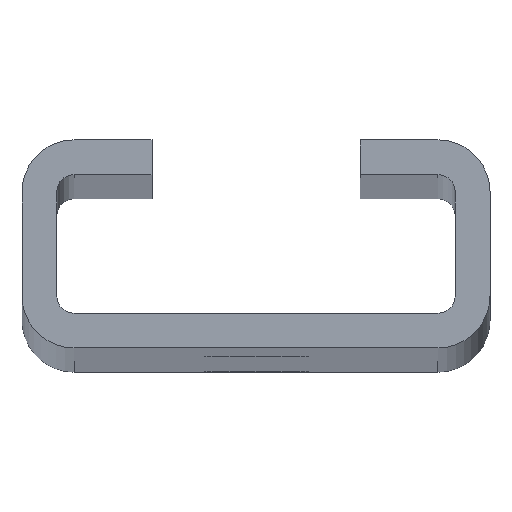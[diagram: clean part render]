
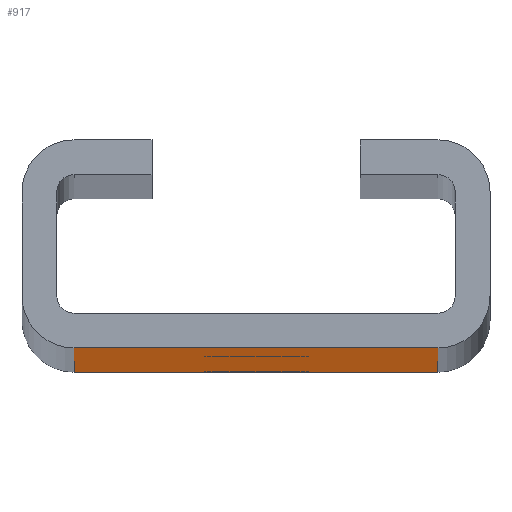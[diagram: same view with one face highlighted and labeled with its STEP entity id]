
A CAD part, top view. The second image highlights one B-rep face of the part: STEP entity #917.
In plain terms, the highlighted planar face has unit normal (0, -1, 0).
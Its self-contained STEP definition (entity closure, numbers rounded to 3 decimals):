
#40 = VERTEX_POINT ( 'NONE', #1173 ) ;
#86 = VERTEX_POINT ( 'NONE', #1135 ) ;
#88 = VERTEX_POINT ( 'NONE', #1134 ) ;
#89 = VERTEX_POINT ( 'NONE', #1138 ) ;
#90 = VERTEX_POINT ( 'NONE', #1139 ) ;
#91 = VERTEX_POINT ( 'NONE', #1105 ) ;
#96 = VERTEX_POINT ( 'NONE', #1172 ) ;
#102 = VERTEX_POINT ( 'NONE', #1154 ) ;
#110 = VERTEX_POINT ( 'NONE', #1131 ) ;
#119 = VERTEX_POINT ( 'NONE', #1116 ) ;
#124 = VERTEX_POINT ( 'NONE', #1111 ) ;
#125 = VERTEX_POINT ( 'NONE', #1145 ) ;
#162 = EDGE_CURVE ( 'NONE', #91, #86, #568, .T. ) ;
#222 = FACE_BOUND ( 'NONE', #1281, .T. ) ;
#223 = FACE_BOUND ( 'NONE', #1308, .T. ) ;
#246 = EDGE_CURVE ( 'NONE', #124, #110, #550, .T. ) ;
#247 = EDGE_CURVE ( 'NONE', #102, #96, #565, .T. ) ;
#248 = EDGE_CURVE ( 'NONE', #86, #91, #552, .T. ) ;
#291 = AXIS2_PLACEMENT_3D ( 'NONE', #630, #629, #628 ) ;
#314 = AXIS2_PLACEMENT_3D ( 'NONE', #725, #722, #718 ) ;
#317 = AXIS2_PLACEMENT_3D ( 'NONE', #820, #818, #815 ) ;
#318 = AXIS2_PLACEMENT_3D ( 'NONE', #906, #887, #861 ) ;
#321 = AXIS2_PLACEMENT_3D ( 'NONE', #952, #950, #949 ) ;
#329 = AXIS2_PLACEMENT_3D ( 'NONE', #1027, #1026, #1025 ) ;
#330 = AXIS2_PLACEMENT_3D ( 'NONE', #1033, #1032, #1031 ) ;
#343 = AXIS2_PLACEMENT_3D ( 'NONE', #999, #997, #998 ) ;
#348 = AXIS2_PLACEMENT_3D ( 'NONE', #1050, #1043, #1042 ) ;
#385 = EDGE_CURVE ( 'NONE', #110, #96, #511, .T. ) ;
#386 = EDGE_CURVE ( 'NONE', #90, #119, #519, .T. ) ;
#387 = EDGE_CURVE ( 'NONE', #88, #40, #509, .T. ) ;
#403 = EDGE_CURVE ( 'NONE', #124, #102, #451, .T. ) ;
#407 = EDGE_CURVE ( 'NONE', #125, #89, #459, .T. ) ;
#414 = EDGE_CURVE ( 'NONE', #40, #88, #466, .T. ) ;
#416 = EDGE_CURVE ( 'NONE', #119, #90, #444, .T. ) ;
#423 = EDGE_CURVE ( 'NONE', #89, #125, #474, .T. ) ;
#444 = CIRCLE ( 'NONE', #317, 3. ) ;
#451 = LINE ( 'NONE', #971, #454 ) ;
#454 = VECTOR ( 'NONE', #970, 1000. ) ;
#459 = CIRCLE ( 'NONE', #321, 3. ) ;
#466 = CIRCLE ( 'NONE', #318, 3. ) ;
#474 = CIRCLE ( 'NONE', #314, 3. ) ;
#508 = VECTOR ( 'NONE', #1038, 1000. ) ;
#509 = CIRCLE ( 'NONE', #329, 3. ) ;
#511 = LINE ( 'NONE', #1040, #508 ) ;
#519 = CIRCLE ( 'NONE', #330, 3. ) ;
#550 = LINE ( 'NONE', #1015, #566 ) ;
#552 = CIRCLE ( 'NONE', #343, 3. ) ;
#563 = VECTOR ( 'NONE', #1011, 1000. ) ;
#565 = LINE ( 'NONE', #1007, #563 ) ;
#566 = VECTOR ( 'NONE', #1013, 1000. ) ;
#568 = CIRCLE ( 'NONE', #348, 3. ) ;
#628 = DIRECTION ( 'NONE',  ( 0., 0., 1. ) ) ;
#629 = DIRECTION ( 'NONE',  ( 0., 1., 0. ) ) ;
#630 = CARTESIAN_POINT ( 'NONE',  ( 3., 0., 800. ) ) ;
#642 = PLANE ( 'NONE',  #291 ) ;
#718 = DIRECTION ( 'NONE',  ( 0., 0., 1. ) ) ;
#722 = DIRECTION ( 'NONE',  ( 0., 1., 0. ) ) ;
#725 = CARTESIAN_POINT ( 'NONE',  ( 13.5, 0., 523.333 ) ) ;
#815 = DIRECTION ( 'NONE',  ( 0., 0., 1. ) ) ;
#818 = DIRECTION ( 'NONE',  ( 0., 1., 0. ) ) ;
#820 = CARTESIAN_POINT ( 'NONE',  ( 13.5, 0., 276.667 ) ) ;
#861 = DIRECTION ( 'NONE',  ( 0., 0., 1. ) ) ;
#887 = DIRECTION ( 'NONE',  ( 0., 1., 0. ) ) ;
#906 = CARTESIAN_POINT ( 'NONE',  ( 13.5, 0., 30. ) ) ;
#917 = ADVANCED_FACE ( 'NONE', ( #222, #1195, #1190, #223, #1191 ), #642, .F. ) ;
#949 = DIRECTION ( 'NONE',  ( 0., 0., 1. ) ) ;
#950 = DIRECTION ( 'NONE',  ( 0., 1., 0. ) ) ;
#952 = CARTESIAN_POINT ( 'NONE',  ( 13.5, 0., 523.333 ) ) ;
#970 = DIRECTION ( 'NONE',  ( 0., 0., -1. ) ) ;
#971 = CARTESIAN_POINT ( 'NONE',  ( 3., 0., 800. ) ) ;
#997 = DIRECTION ( 'NONE',  ( 0., 1., 0. ) ) ;
#998 = DIRECTION ( 'NONE',  ( 0., 0., 1. ) ) ;
#999 = CARTESIAN_POINT ( 'NONE',  ( 13.5, 0., 770. ) ) ;
#1007 = CARTESIAN_POINT ( 'NONE',  ( 3., 0., 0. ) ) ;
#1011 = DIRECTION ( 'NONE',  ( 1., 0., 0. ) ) ;
#1013 = DIRECTION ( 'NONE',  ( 1., 0., 0. ) ) ;
#1015 = CARTESIAN_POINT ( 'NONE',  ( 3., 0., 800. ) ) ;
#1025 = DIRECTION ( 'NONE',  ( 0., 0., 1. ) ) ;
#1026 = DIRECTION ( 'NONE',  ( 0., 1., 0. ) ) ;
#1027 = CARTESIAN_POINT ( 'NONE',  ( 13.5, 0., 30. ) ) ;
#1031 = DIRECTION ( 'NONE',  ( 0., 0., 1. ) ) ;
#1032 = DIRECTION ( 'NONE',  ( 0., 1., 0. ) ) ;
#1033 = CARTESIAN_POINT ( 'NONE',  ( 13.5, 0., 276.667 ) ) ;
#1038 = DIRECTION ( 'NONE',  ( 0., 0., -1. ) ) ;
#1040 = CARTESIAN_POINT ( 'NONE',  ( 24., 0., 800. ) ) ;
#1042 = DIRECTION ( 'NONE',  ( 0., 0., 1. ) ) ;
#1043 = DIRECTION ( 'NONE',  ( 0., 1., 0. ) ) ;
#1050 = CARTESIAN_POINT ( 'NONE',  ( 13.5, 0., 770. ) ) ;
#1105 = CARTESIAN_POINT ( 'NONE',  ( 16.5, 0., 770. ) ) ;
#1111 = CARTESIAN_POINT ( 'NONE',  ( 3., 0., 800. ) ) ;
#1116 = CARTESIAN_POINT ( 'NONE',  ( 16.5, 0., 276.667 ) ) ;
#1131 = CARTESIAN_POINT ( 'NONE',  ( 24., 0., 800. ) ) ;
#1134 = CARTESIAN_POINT ( 'NONE',  ( 10.5, 0., 30. ) ) ;
#1135 = CARTESIAN_POINT ( 'NONE',  ( 10.5, 0., 770. ) ) ;
#1138 = CARTESIAN_POINT ( 'NONE',  ( 16.5, 0., 523.333 ) ) ;
#1139 = CARTESIAN_POINT ( 'NONE',  ( 10.5, 0., 276.667 ) ) ;
#1145 = CARTESIAN_POINT ( 'NONE',  ( 10.5, 0., 523.333 ) ) ;
#1154 = CARTESIAN_POINT ( 'NONE',  ( 3., 0., 0. ) ) ;
#1172 = CARTESIAN_POINT ( 'NONE',  ( 24., 0., 0. ) ) ;
#1173 = CARTESIAN_POINT ( 'NONE',  ( 16.5, 0., 30. ) ) ;
#1190 = FACE_OUTER_BOUND ( 'NONE', #1296, .T. ) ;
#1191 = FACE_BOUND ( 'NONE', #1293, .T. ) ;
#1195 = FACE_BOUND ( 'NONE', #1291, .T. ) ;
#1203 = ORIENTED_EDGE ( 'NONE', *, *, #416, .T. ) ;
#1204 = ORIENTED_EDGE ( 'NONE', *, *, #248, .T. ) ;
#1208 = ORIENTED_EDGE ( 'NONE', *, *, #414, .T. ) ;
#1244 = ORIENTED_EDGE ( 'NONE', *, *, #387, .T. ) ;
#1246 = ORIENTED_EDGE ( 'NONE', *, *, #162, .T. ) ;
#1250 = ORIENTED_EDGE ( 'NONE', *, *, #407, .T. ) ;
#1252 = ORIENTED_EDGE ( 'NONE', *, *, #247, .T. ) ;
#1253 = ORIENTED_EDGE ( 'NONE', *, *, #423, .T. ) ;
#1256 = ORIENTED_EDGE ( 'NONE', *, *, #385, .F. ) ;
#1258 = ORIENTED_EDGE ( 'NONE', *, *, #403, .T. ) ;
#1259 = ORIENTED_EDGE ( 'NONE', *, *, #386, .T. ) ;
#1260 = ORIENTED_EDGE ( 'NONE', *, *, #246, .F. ) ;
#1281 = EDGE_LOOP ( 'NONE', ( #1250, #1253 ) ) ;
#1291 = EDGE_LOOP ( 'NONE', ( #1204, #1246 ) ) ;
#1293 = EDGE_LOOP ( 'NONE', ( #1244, #1208 ) ) ;
#1296 = EDGE_LOOP ( 'NONE', ( #1252, #1256, #1260, #1258 ) ) ;
#1308 = EDGE_LOOP ( 'NONE', ( #1259, #1203 ) ) ;
